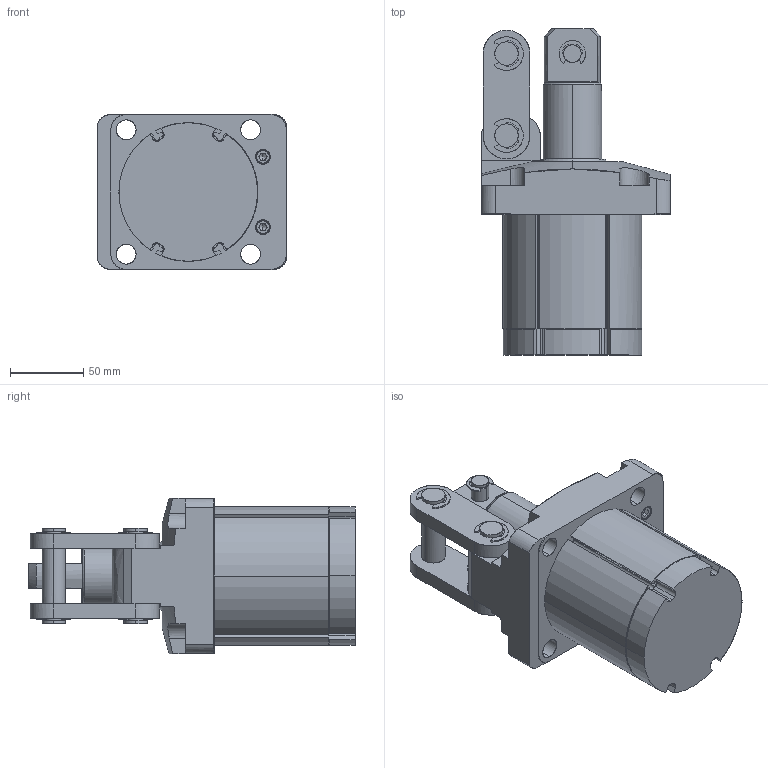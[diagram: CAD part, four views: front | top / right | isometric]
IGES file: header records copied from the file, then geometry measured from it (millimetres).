
Start section: Comment
Global section: file name: jss63-49.igs; native system:  By Spatial Corp.; preprocessor: XPlus GENERIC/IGES 3.0; author: Author; organization: Title; date: 20080526.132303; units: millimetre
Bounding box: 129 x 223 x 106 mm (x, y, z)
Surface area: 165644.5 mm2 (no closed solid volume)
Topology: 0 solids, 0 shells, 479 faces, 2552 edges, 2540 vertices
Faces by surface type: bspline 479
